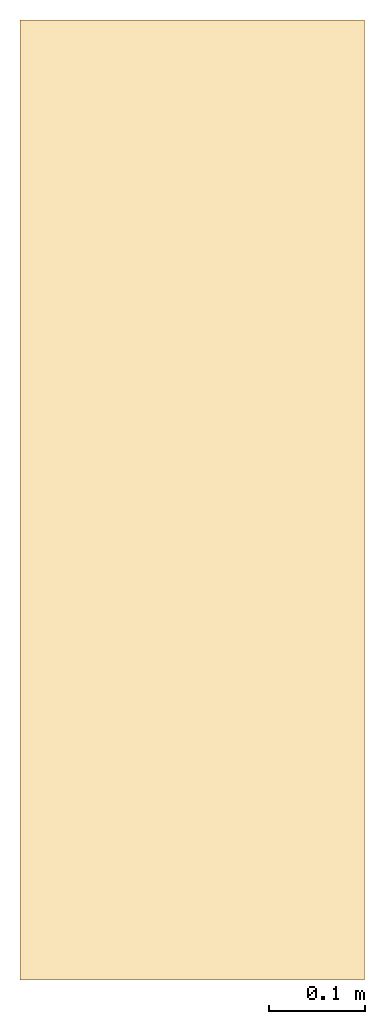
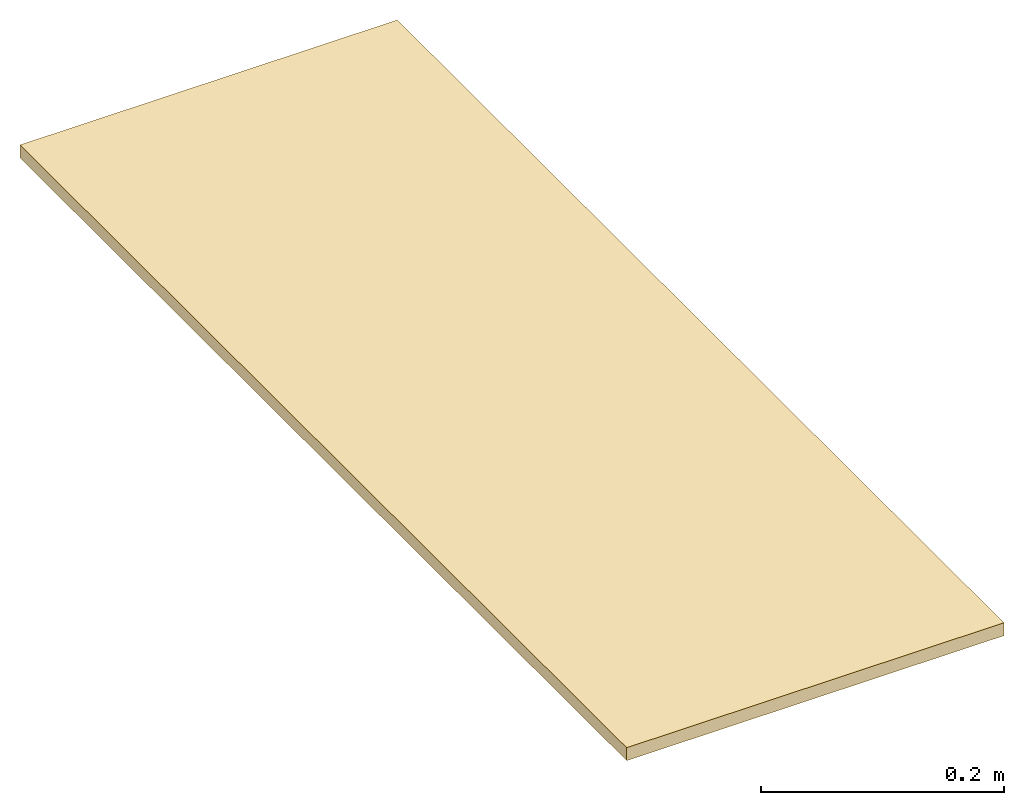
# One storey: 1 covering.
"""IFC4 building model written with IfcOpenShell, lengths in centimetres."""

from ifc_helpers import new_model, entity, si_unit, converted_unit, direction, frame, origin, place, context, subcontext, project, spatial, indexed_curve, outline, extrude, material, type_object, element, save


model = new_model("IFC4")

# Units and contexts
model_context = context("Model", 3, precision=0.001, world=origin(), true_north=direction((0.0, 1.0)))
body_context = subcontext(model_context, "Body", "Model", "MODEL_VIEW")
ifc_project = project(units=[si_unit("LENGTHUNIT", "METRE", prefix="CENTI"), si_unit("AREAUNIT", "SQUARE_METRE"), si_unit("VOLUMEUNIT", "CUBIC_METRE"), converted_unit("PLANEANGLEUNIT", "DEGREE", entity("IfcPlaneAngleMeasure", 0.017453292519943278), si_unit("PLANEANGLEUNIT", "RADIAN"), dimensions=[0, 0, 0, 0, 0, 0, 0])], contexts=[model_context])

# Site, building, storey
site_placement = place(None, origin())
site = spatial("IfcSite", under=ifc_project, at=site_placement, Name="Default", CompositionType="ELEMENT")
building_placement = place(site_placement, origin())
building = spatial("IfcBuilding", under=site, at=building_placement, CompositionType="ELEMENT")
storey_placement = place(building_placement, frame((0.0, 0.0, -612.0)))
storey = spatial("IfcBuildingStorey", under=building, at=storey_placement, Name="B2__ABOVE Slab", CompositionType="ELEMENT", Elevation=-612.0000000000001)

# Covering
ifc_material = material(Name="_WLL & CLG FINISHES__Lime - CEM Plaster", Category="Unassigned")
covering_type = type_object("IfcCoveringType", Name="Ceilings : Compound Ceiling : clg__INT COVERING__, GB 1.5cm__12.5(A) 3", PredefinedType="CEILING")
covering_placement = place(storey_placement, frame((1439.7494566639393, 219.37187315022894, 591.0)))
element("IfcCovering", 1, at=covering_placement, inside=storey, type_object=covering_type, material=ifc_material, Name="Ceilings : Compound Ceiling : clg__INT COVERING__, GB 1.5cm__12.5(A) 3", PredefinedType="CEILING", context=body_context, shape_type="SweptSolid", body=[
    extrude(outline(indexed_curve([(-17.950000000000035, -50.0), (17.949999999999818, -50.0), (17.949999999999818, 50.0), (-17.950000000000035, 50.0), (-17.950000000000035, -50.0)], self_intersect=False)), frame((17.949999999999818, 50.0, 0.0)), (0.0, 0.0, 1.0), 1.299999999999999),
])

save(model, "model.ifc")
